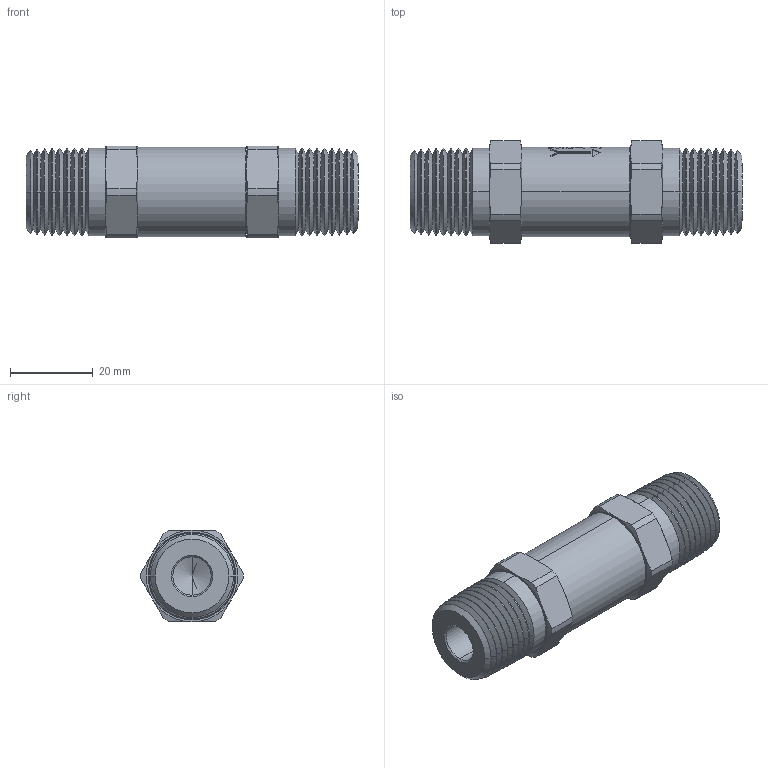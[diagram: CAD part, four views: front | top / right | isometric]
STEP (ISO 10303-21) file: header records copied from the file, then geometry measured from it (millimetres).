
FILE_DESCRIPTION (( 'STEP AP203' ), '1' );
FILE_NAME ('PCV-8P.STEP', '2019-07-23T15:54:34', ( '' ), ( '' ), 'SwSTEP 2.0', 'SolidWorks 2011', '' );
FILE_SCHEMA (( 'CONFIG_CONTROL_DESIGN' ));
Length unit declared in the file: inch
Products named in the file (2): PCV-8P; Part1^PCV-8P_CM
Assembly tree (1 placements, depth 2):
  PCV-8P
    Part1^PCV-8P_CM
Bounding box: 80.44 x 24.76 x 22.23 mm (x, y, z)
Volume: 26728.7 mm3; surface area: 8741.9 mm2
Topology: 1 solids, 1 shells, 426 faces, 1038 edges, 640 vertices
Faces by surface type: cone 150, plane 149, bspline 70, cylinder 55, torus 2
Entity records: 17155 total; most frequent: CARTESIAN_POINT 7509, ORIENTED_EDGE 2068, DIRECTION 1806, EDGE_CURVE 1034, AXIS2_PLACEMENT_3D 698, VERTEX_POINT 640, EDGE_LOOP 456, FACE_OUTER_BOUND 426
